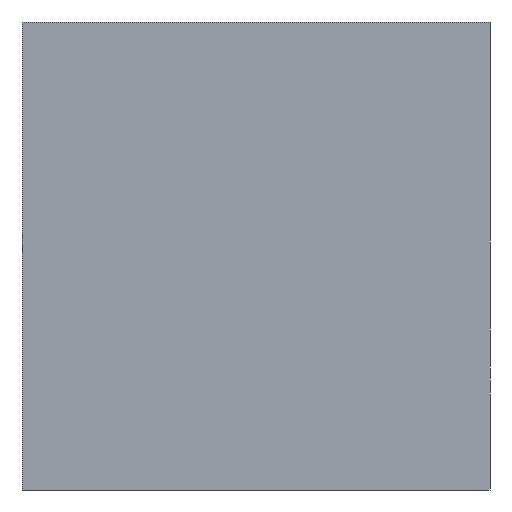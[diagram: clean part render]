
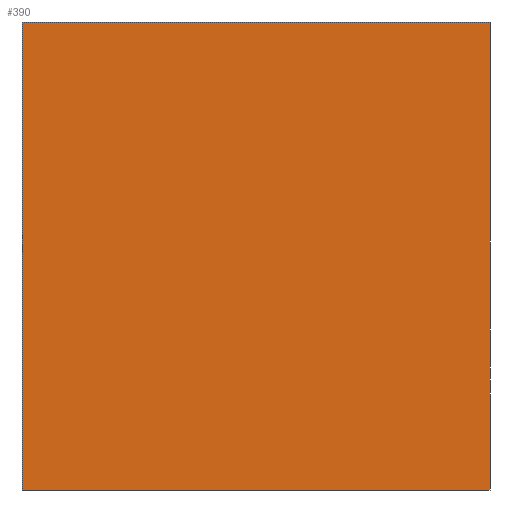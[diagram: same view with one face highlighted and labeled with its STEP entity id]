
A CAD part, front view. The second image highlights one B-rep face of the part: STEP entity #390.
In plain terms, the highlighted planar face has unit normal (0, -1, 0).
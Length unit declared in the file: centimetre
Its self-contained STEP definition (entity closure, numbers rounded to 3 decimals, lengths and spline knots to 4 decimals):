
#28 = LINE ( 'NONE', #211, #126 ) ;
#31 = CARTESIAN_POINT ( 'NONE',  ( 1000., 0., 1000. ) ) ;
#74 = PLANE ( 'NONE',  #238 ) ;
#76 = VERTEX_POINT ( 'NONE', #327 ) ;
#77 = EDGE_CURVE ( 'NONE', #76, #536, #603, .T. ) ;
#78 = LINE ( 'NONE', #31, #326 ) ;
#79 = CARTESIAN_POINT ( 'NONE',  ( 1000., 0., 1000. ) ) ;
#110 = CARTESIAN_POINT ( 'NONE',  ( 0., 0., 1000. ) ) ;
#120 = CARTESIAN_POINT ( 'NONE',  ( 0., 0., 1000. ) ) ;
#126 = VECTOR ( 'NONE', #259, 100. ) ;
#211 = CARTESIAN_POINT ( 'NONE',  ( 0., 0., 1000. ) ) ;
#225 = FACE_OUTER_BOUND ( 'NONE', #341, .T. ) ;
#238 = AXIS2_PLACEMENT_3D ( 'NONE', #365, #475, #631 ) ;
#256 = DIRECTION ( 'NONE',  ( 0., 0., -1. ) ) ;
#259 = DIRECTION ( 'NONE',  ( 0., 0., -1. ) ) ;
#269 = ORIENTED_EDGE ( 'NONE', *, *, #493, .T. ) ;
#271 = VERTEX_POINT ( 'NONE', #79 ) ;
#316 = VERTEX_POINT ( 'NONE', #120 ) ;
#326 = VECTOR ( 'NONE', #256, 100. ) ;
#327 = CARTESIAN_POINT ( 'NONE',  ( 0., 0., 0. ) ) ;
#341 = EDGE_LOOP ( 'NONE', ( #483, #604, #615, #269 ) ) ;
#347 = VECTOR ( 'NONE', #549, 100. ) ;
#351 = LINE ( 'NONE', #110, #670 ) ;
#365 = CARTESIAN_POINT ( 'NONE',  ( 0., 0., 1000. ) ) ;
#390 = ADVANCED_FACE ( 'NONE', ( #225 ), #74, .F. ) ;
#399 = DIRECTION ( 'NONE',  ( 1., 0., 0. ) ) ;
#433 = CARTESIAN_POINT ( 'NONE',  ( 1000., 0., 0. ) ) ;
#475 = DIRECTION ( 'NONE',  ( 0., 1., 0. ) ) ;
#483 = ORIENTED_EDGE ( 'NONE', *, *, #77, .T. ) ;
#493 = EDGE_CURVE ( 'NONE', #316, #76, #28, .T. ) ;
#536 = VERTEX_POINT ( 'NONE', #433 ) ;
#543 = EDGE_CURVE ( 'NONE', #271, #536, #78, .T. ) ;
#549 = DIRECTION ( 'NONE',  ( 1., 0., 0. ) ) ;
#603 = LINE ( 'NONE', #658, #347 ) ;
#604 = ORIENTED_EDGE ( 'NONE', *, *, #543, .F. ) ;
#615 = ORIENTED_EDGE ( 'NONE', *, *, #681, .F. ) ;
#631 = DIRECTION ( 'NONE',  ( 0., 0., 1. ) ) ;
#658 = CARTESIAN_POINT ( 'NONE',  ( 0., 0., 0. ) ) ;
#670 = VECTOR ( 'NONE', #399, 100. ) ;
#681 = EDGE_CURVE ( 'NONE', #316, #271, #351, .T. ) ;
